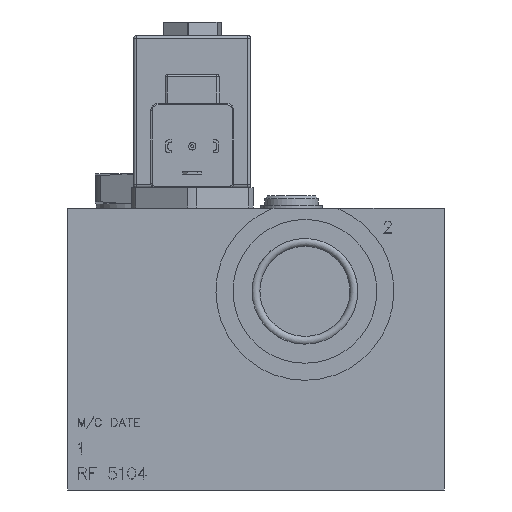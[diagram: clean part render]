
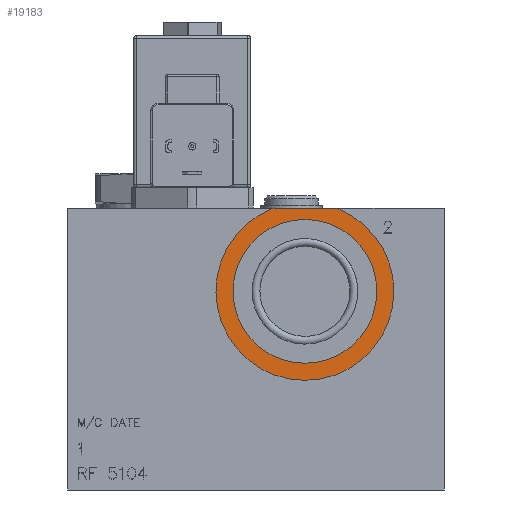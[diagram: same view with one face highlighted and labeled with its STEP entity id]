
A CAD part, front view. The second image highlights one B-rep face of the part: STEP entity #19183.
In plain terms, the highlighted planar face has unit normal (0, -1, 0).
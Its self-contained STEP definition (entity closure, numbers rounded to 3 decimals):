
#1623=PLANE('',#20952);
#2431=LINE('',#27564,#3642);
#3642=VECTOR('',#22396,1000.);
#5845=ORIENTED_EDGE('',*,*,#10873,.F.);
#5846=ORIENTED_EDGE('',*,*,#11119,.T.);
#5847=ORIENTED_EDGE('',*,*,#10776,.F.);
#10776=EDGE_CURVE('',#13592,#13593,#2431,.T.);
#10873=EDGE_CURVE('',#13683,#13683,#15312,.F.);
#11119=EDGE_CURVE('',#13592,#13593,#15336,.T.);
#13592=VERTEX_POINT('',#27563);
#13593=VERTEX_POINT('',#27565);
#13683=VERTEX_POINT('',#27823);
#15312=CIRCLE('',#20785,24.257);
#15336=CIRCLE('',#20951,30.);
#15986=EDGE_LOOP('',(#5845));
#15987=EDGE_LOOP('',(#5846,#5847));
#17544=FACE_BOUND('',#15986,.T.);
#17545=FACE_BOUND('',#15987,.T.);
#19183=ADVANCED_FACE('',(#17544,#17545),#1623,.F.);
#20785=AXIS2_PLACEMENT_3D('',#27822,#22505,#22506);
#20951=AXIS2_PLACEMENT_3D('',#28495,#22933,#22934);
#20952=AXIS2_PLACEMENT_3D('',#28496,#22935,#22936);
#22396=DIRECTION('',(1.,0.,0.));
#22505=DIRECTION('',(0.,1.,0.));
#22506=DIRECTION('',(0.,0.,1.));
#22933=DIRECTION('',(0.,-1.,0.));
#22934=DIRECTION('',(0.,0.,-1.));
#22935=DIRECTION('',(0.,1.,0.));
#22936=DIRECTION('',(0.,0.,1.));
#27563=CARTESIAN_POINT('',(69.23,1.5,0.));
#27564=CARTESIAN_POINT('',(0.,1.5,0.));
#27565=CARTESIAN_POINT('',(90.77,1.5,0.));
#27822=CARTESIAN_POINT('',(80.,1.5,-28.));
#27823=CARTESIAN_POINT('',(80.,1.5,-3.743));
#28495=CARTESIAN_POINT('',(80.,1.5,-28.));
#28496=CARTESIAN_POINT('',(80.,1.5,-28.));
